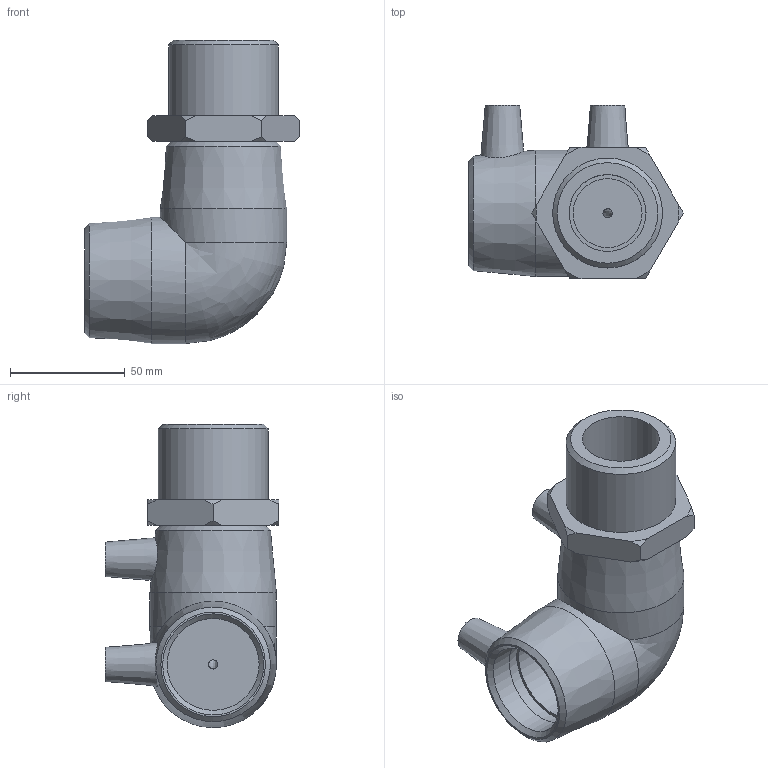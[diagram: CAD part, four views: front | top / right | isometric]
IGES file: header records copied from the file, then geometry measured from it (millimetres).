
Global section: file name: 497504040015.ipt; native system: Autodesk Inventor 2015; preprocessor: unknown; author: KIM; date: 20190421.151318; units: millimetre
Bounding box: 93.5 x 75.58 x 132 mm (x, y, z)
Volume: 258614.1 mm3; surface area: 58896 mm2
Topology: 2 solids, 2 shells, 60 faces, 146 edges, 98 vertices
Faces by surface type: plane 22, cone 19, revolution 12, cylinder 6, bspline 1
Full cylindrical faces by diameter (mm): 4 x2, 40 x1, 47.803 x1, 55 x2
